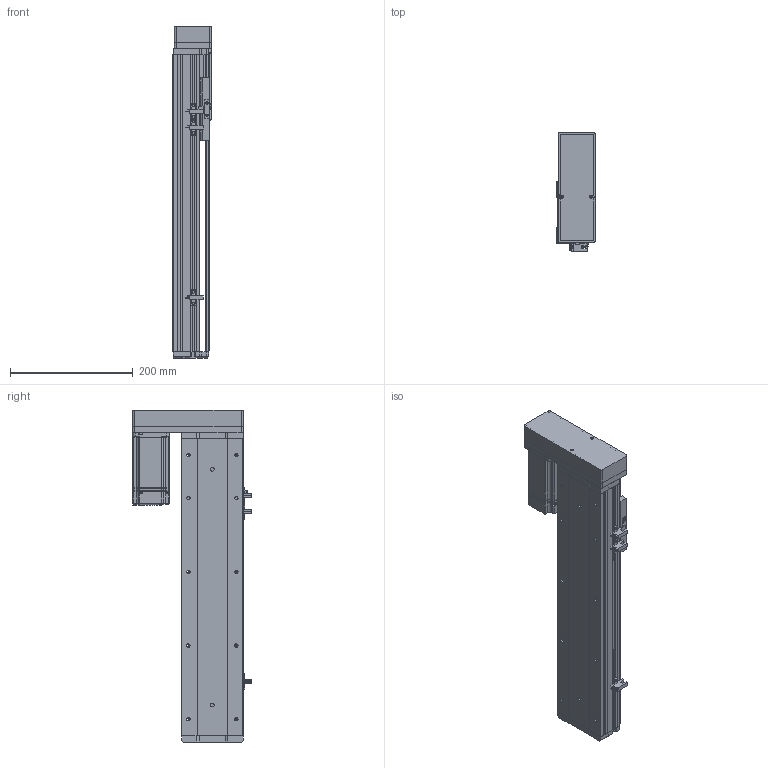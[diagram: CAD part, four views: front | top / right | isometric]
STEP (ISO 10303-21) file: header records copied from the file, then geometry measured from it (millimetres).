
FILE_DESCRIPTION (( 'STEP AP214' ), '1' );
FILE_NAME ('KSD100S-S300-ML-CM.STEP', '2019-08-30T05:57:15', ( '微软用户' ), ( '微软中国' ), 'SwSTEP 2.0', 'SolidWorks 2014', '' );
FILE_SCHEMA (( 'AUTOMOTIVE_DESIGN' ));
Length unit declared in the file: millimetre
Products named in the file (11): 100宽底板半封闭丝杆300行程; KSD100S-S300-ML-CM; MHMD042G1CA_2_03; 悵誘欶酘衵殏; 100宽马达安装板连板左右折丝杆; U倰嫖萇EEㄜSX672; 覜茼え100遵圉猾敕; 100宽防尘板丝杆300行程; 100遵鎮湛假蚾啣; 100宽滚珠螺姆安装板半封闭; 100遵傷啣
Assembly tree (12 placements, depth 2):
  KSD100S-S300-ML-CM
    100宽底板半封闭丝杆300行程
    100遵傷啣
    100宽滚珠螺姆安装板半封闭
    100遵鎮湛假蚾啣
    100宽防尘板丝杆300行程
    覜茼え100遵圉猾敕
    U倰嫖萇EEㄜSX672  x3
    100宽马达安装板连板左右折丝杆
    悵誘欶酘衵殏
    MHMD042G1CA_2_03
Bounding box: 62 x 193.7 x 540.5 mm (x, y, z)
Volume: 1209069.3 mm3; surface area: 497347.9 mm2
Topology: 11 solids, 12 shells, 1429 faces, 4069 edges, 2634 vertices
Faces by surface type: cylinder 646, plane 633, cone 132, bspline 18
Entity records: 52318 total; most frequent: CARTESIAN_POINT 9329, DIRECTION 7047, ORIENTED_EDGE 6678, EDGE_CURVE 3411, AXIS2_PLACEMENT_3D 2522, VERTEX_POINT 2258, VECTOR 2003, LINE 2003
